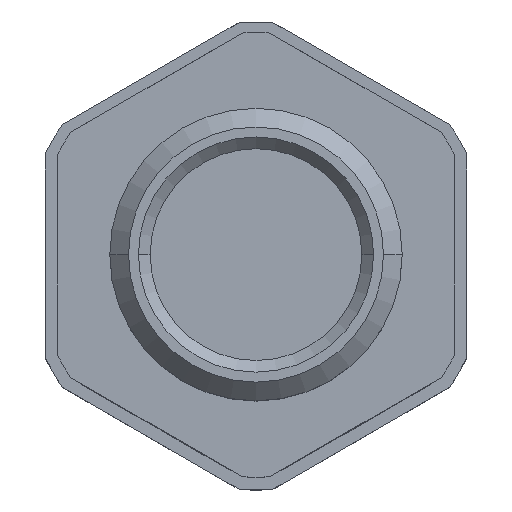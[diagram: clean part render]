
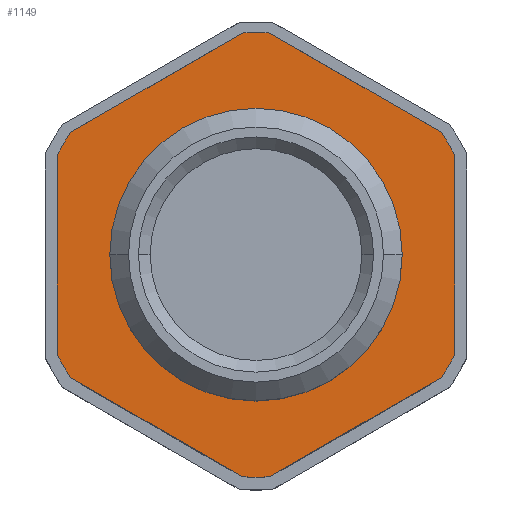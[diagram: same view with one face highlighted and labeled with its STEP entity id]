
A CAD part, top view. The second image highlights one B-rep face of the part: STEP entity #1149.
In plain terms, the highlighted planar face has unit normal (0, 0, 1).
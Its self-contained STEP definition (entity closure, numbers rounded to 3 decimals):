
#1 = DIRECTION ( 'NONE',  ( -1., 0., 0. ) ) ;
#35 = PLANE ( 'NONE',  #182 ) ;
#55 = DIRECTION ( 'NONE',  ( 0.866, 0.5, 0. ) ) ;
#76 = ORIENTED_EDGE ( 'NONE', *, *, #927, .F. ) ;
#119 = ORIENTED_EDGE ( 'NONE', *, *, #2469, .F. ) ;
#122 = VERTEX_POINT ( 'NONE', #2211 ) ;
#149 = CARTESIAN_POINT ( 'NONE',  ( 17., -8.485, 0. ) ) ;
#173 = CARTESIAN_POINT ( 'NONE',  ( 0., 0., 0. ) ) ;
#178 = EDGE_CURVE ( 'NONE', #704, #2941, #521, .T. ) ;
#179 = LINE ( 'NONE', #276, #1445 ) ;
#182 = AXIS2_PLACEMENT_3D ( 'NONE', #1668, #505, #2134 ) ;
#187 = CARTESIAN_POINT ( 'NONE',  ( -15.848, -10.48, 0. ) ) ;
#190 = VERTEX_POINT ( 'NONE', #1203 ) ;
#205 = AXIS2_PLACEMENT_3D ( 'NONE', #173, #1803, #408 ) ;
#214 = FACE_BOUND ( 'NONE', #1784, .T. ) ;
#232 = CARTESIAN_POINT ( 'NONE',  ( 0., -19.63, 0. ) ) ;
#237 = EDGE_CURVE ( 'NONE', #1658, #2653, #2242, .T. ) ;
#276 = CARTESIAN_POINT ( 'NONE',  ( 17., -9.815, 0. ) ) ;
#300 = CARTESIAN_POINT ( 'NONE',  ( -17., 8.485, 0. ) ) ;
#321 = EDGE_CURVE ( 'NONE', #802, #322, #1542, .T. ) ;
#322 = VERTEX_POINT ( 'NONE', #918 ) ;
#327 = VERTEX_POINT ( 'NONE', #2554 ) ;
#335 = CARTESIAN_POINT ( 'NONE',  ( 0., 0., 0. ) ) ;
#377 = AXIS2_PLACEMENT_3D ( 'NONE', #2598, #1211, #2818 ) ;
#383 = EDGE_CURVE ( 'NONE', #327, #1658, #2645, .T. ) ;
#387 = AXIS2_PLACEMENT_3D ( 'NONE', #389, #2018, #623 ) ;
#389 = CARTESIAN_POINT ( 'NONE',  ( 0., 0., 0. ) ) ;
#408 = DIRECTION ( 'NONE',  ( 1., 0., 0. ) ) ;
#412 = VECTOR ( 'NONE', #2178, 1000. ) ;
#430 = CARTESIAN_POINT ( 'NONE',  ( 0., 0., 0. ) ) ;
#470 = VECTOR ( 'NONE', #879, 1000. ) ;
#505 = DIRECTION ( 'NONE',  ( 0., 0., -1. ) ) ;
#515 = CARTESIAN_POINT ( 'NONE',  ( 0., 0., 0. ) ) ;
#521 = CIRCLE ( 'NONE', #908, 19. ) ;
#527 = ORIENTED_EDGE ( 'NONE', *, *, #237, .F. ) ;
#573 = DIRECTION ( 'NONE',  ( 1., 0., 0. ) ) ;
#623 = DIRECTION ( 'NONE',  ( 1., 0., 0. ) ) ;
#671 = EDGE_CURVE ( 'NONE', #1991, #1148, #1572, .T. ) ;
#672 = DIRECTION ( 'NONE',  ( 1., 0., 0. ) ) ;
#676 = CIRCLE ( 'NONE', #2331, 11.5 ) ;
#703 = AXIS2_PLACEMENT_3D ( 'NONE', #2298, #890, #2524 ) ;
#704 = VERTEX_POINT ( 'NONE', #187 ) ;
#757 = DIRECTION ( 'NONE',  ( -1., 0., 0. ) ) ;
#802 = VERTEX_POINT ( 'NONE', #149 ) ;
#850 = ORIENTED_EDGE ( 'NONE', *, *, #1764, .F. ) ;
#853 = VERTEX_POINT ( 'NONE', #2366 ) ;
#879 = DIRECTION ( 'NONE',  ( 0., 1., 0. ) ) ;
#890 = DIRECTION ( 'NONE',  ( 0., 0., -1. ) ) ;
#897 = ORIENTED_EDGE ( 'NONE', *, *, #1294, .F. ) ;
#908 = AXIS2_PLACEMENT_3D ( 'NONE', #335, #1969, #573 ) ;
#918 = CARTESIAN_POINT ( 'NONE',  ( 15.848, -10.48, 0. ) ) ;
#927 = EDGE_CURVE ( 'NONE', #322, #1991, #179, .T. ) ;
#1062 = VECTOR ( 'NONE', #1405, 1000. ) ;
#1125 = LINE ( 'NONE', #232, #1062 ) ;
#1148 = VERTEX_POINT ( 'NONE', #1210 ) ;
#1149 = ADVANCED_FACE ( 'NONE', ( #2235, #214 ), #35, .F. ) ;
#1203 = CARTESIAN_POINT ( 'NONE',  ( 17., 8.485, 0. ) ) ;
#1210 = CARTESIAN_POINT ( 'NONE',  ( -1.152, -18.965, 0. ) ) ;
#1211 = DIRECTION ( 'NONE',  ( 0., 0., -1. ) ) ;
#1232 = EDGE_LOOP ( 'NONE', ( #1761, #1556, #850, #527, #2473, #2212, #1295, #2023, #2965, #119, #2168, #76 ) ) ;
#1294 = EDGE_CURVE ( 'NONE', #853, #122, #1963, .T. ) ;
#1295 = ORIENTED_EDGE ( 'NONE', *, *, #2901, .F. ) ;
#1396 = EDGE_CURVE ( 'NONE', #190, #802, #2216, .T. ) ;
#1405 = DIRECTION ( 'NONE',  ( -0.866, 0.5, 0. ) ) ;
#1411 = DIRECTION ( 'NONE',  ( 0., 0., 1. ) ) ;
#1445 = VECTOR ( 'NONE', #1687, 1000. ) ;
#1531 = EDGE_CURVE ( 'NONE', #122, #853, #676, .T. ) ;
#1542 = CIRCLE ( 'NONE', #387, 19. ) ;
#1556 = ORIENTED_EDGE ( 'NONE', *, *, #1396, .F. ) ;
#1572 = CIRCLE ( 'NONE', #205, 19. ) ;
#1616 = CARTESIAN_POINT ( 'NONE',  ( -15.848, 10.48, 0. ) ) ;
#1653 = CARTESIAN_POINT ( 'NONE',  ( -17., -8.485, 0. ) ) ;
#1658 = VERTEX_POINT ( 'NONE', #2094 ) ;
#1668 = CARTESIAN_POINT ( 'NONE',  ( 0., 0., 0. ) ) ;
#1687 = DIRECTION ( 'NONE',  ( -0.866, -0.5, 0. ) ) ;
#1716 = CIRCLE ( 'NONE', #2098, 19. ) ;
#1730 = CARTESIAN_POINT ( 'NONE',  ( -17., -9.815, 0. ) ) ;
#1751 = CIRCLE ( 'NONE', #377, 19. ) ;
#1761 = ORIENTED_EDGE ( 'NONE', *, *, #321, .F. ) ;
#1764 = EDGE_CURVE ( 'NONE', #2653, #190, #1716, .T. ) ;
#1784 = EDGE_LOOP ( 'NONE', ( #897, #2916 ) ) ;
#1803 = DIRECTION ( 'NONE',  ( 0., 0., -1. ) ) ;
#1918 = CARTESIAN_POINT ( 'NONE',  ( 1.152, -18.965, 0. ) ) ;
#1940 = VECTOR ( 'NONE', #55, 1000. ) ;
#1963 = CIRCLE ( 'NONE', #2531, 11.5 ) ;
#1969 = DIRECTION ( 'NONE',  ( 0., 0., -1. ) ) ;
#1991 = VERTEX_POINT ( 'NONE', #1918 ) ;
#1994 = DIRECTION ( 'NONE',  ( 0.866, -0.5, 0. ) ) ;
#2018 = DIRECTION ( 'NONE',  ( 0., 0., -1. ) ) ;
#2023 = ORIENTED_EDGE ( 'NONE', *, *, #2683, .F. ) ;
#2062 = DIRECTION ( 'NONE',  ( 0., 0., -1. ) ) ;
#2094 = CARTESIAN_POINT ( 'NONE',  ( 1.152, 18.965, 0. ) ) ;
#2098 = AXIS2_PLACEMENT_3D ( 'NONE', #430, #2062, #672 ) ;
#2110 = VERTEX_POINT ( 'NONE', #1616 ) ;
#2134 = DIRECTION ( 'NONE',  ( 1., 0., 0. ) ) ;
#2146 = DIRECTION ( 'NONE',  ( 0., 0., 1. ) ) ;
#2168 = ORIENTED_EDGE ( 'NONE', *, *, #671, .F. ) ;
#2178 = DIRECTION ( 'NONE',  ( 0., -1., 0. ) ) ;
#2193 = VERTEX_POINT ( 'NONE', #300 ) ;
#2211 = CARTESIAN_POINT ( 'NONE',  ( -11.5, 0., 0. ) ) ;
#2212 = ORIENTED_EDGE ( 'NONE', *, *, #2591, .F. ) ;
#2216 = LINE ( 'NONE', #2652, #412 ) ;
#2235 = FACE_OUTER_BOUND ( 'NONE', #1232, .T. ) ;
#2242 = LINE ( 'NONE', #2687, #2315 ) ;
#2298 = CARTESIAN_POINT ( 'NONE',  ( 0., 0., 0. ) ) ;
#2315 = VECTOR ( 'NONE', #1994, 1000. ) ;
#2331 = AXIS2_PLACEMENT_3D ( 'NONE', #515, #2146, #757 ) ;
#2345 = LINE ( 'NONE', #1730, #470 ) ;
#2366 = CARTESIAN_POINT ( 'NONE',  ( 11.5, 0., 0. ) ) ;
#2421 = CARTESIAN_POINT ( 'NONE',  ( 15.848, 10.48, 0. ) ) ;
#2469 = EDGE_CURVE ( 'NONE', #1148, #704, #1125, .T. ) ;
#2473 = ORIENTED_EDGE ( 'NONE', *, *, #383, .F. ) ;
#2479 = LINE ( 'NONE', #2621, #1940 ) ;
#2524 = DIRECTION ( 'NONE',  ( 1., 0., 0. ) ) ;
#2531 = AXIS2_PLACEMENT_3D ( 'NONE', #2787, #1411, #1 ) ;
#2554 = CARTESIAN_POINT ( 'NONE',  ( -1.152, 18.965, 0. ) ) ;
#2591 = EDGE_CURVE ( 'NONE', #2110, #327, #2479, .T. ) ;
#2598 = CARTESIAN_POINT ( 'NONE',  ( 0., 0., 0. ) ) ;
#2621 = CARTESIAN_POINT ( 'NONE',  ( -17., 9.815, 0. ) ) ;
#2645 = CIRCLE ( 'NONE', #703, 19. ) ;
#2652 = CARTESIAN_POINT ( 'NONE',  ( 17., 9.815, 0. ) ) ;
#2653 = VERTEX_POINT ( 'NONE', #2421 ) ;
#2683 = EDGE_CURVE ( 'NONE', #2941, #2193, #2345, .T. ) ;
#2687 = CARTESIAN_POINT ( 'NONE',  ( 0., 19.63, 0. ) ) ;
#2787 = CARTESIAN_POINT ( 'NONE',  ( 0., 0., 0. ) ) ;
#2818 = DIRECTION ( 'NONE',  ( 1., 0., 0. ) ) ;
#2901 = EDGE_CURVE ( 'NONE', #2193, #2110, #1751, .T. ) ;
#2916 = ORIENTED_EDGE ( 'NONE', *, *, #1531, .F. ) ;
#2941 = VERTEX_POINT ( 'NONE', #1653 ) ;
#2965 = ORIENTED_EDGE ( 'NONE', *, *, #178, .F. ) ;
